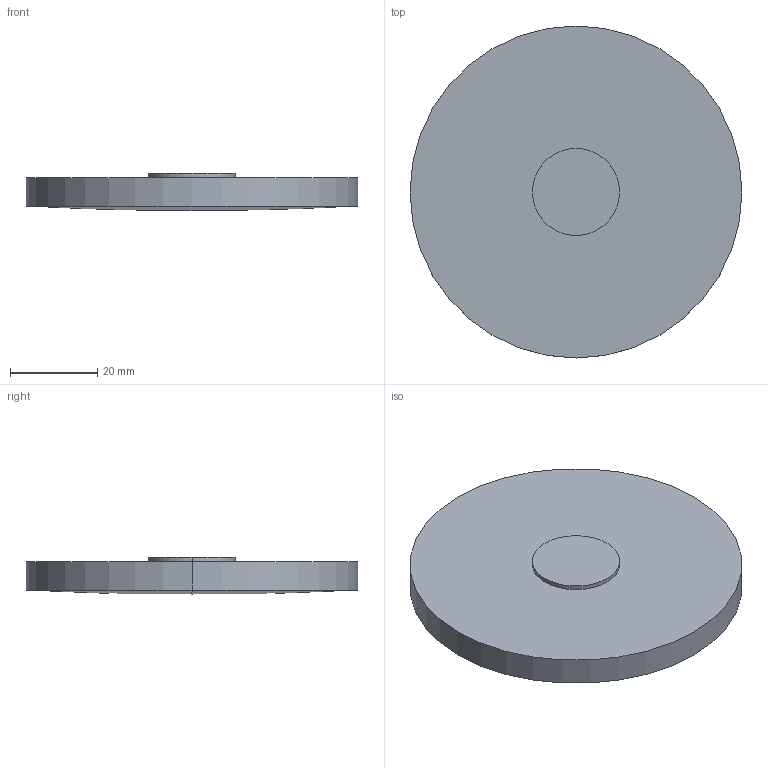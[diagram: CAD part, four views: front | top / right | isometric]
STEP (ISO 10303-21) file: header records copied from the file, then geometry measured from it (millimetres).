
FILE_DESCRIPTION(('STEP AP214'),'1');
FILE_NAME('LL-76-1M.STEP','2020-03-09T17:41:19',(' '),(' '),'Spatial InterOp 3D',' ',' ');
FILE_SCHEMA(('AUTOMOTIVE_DESIGN { 1 0 10303 214 1 1 1 1 }'));
Length unit declared in the file: millimetre
Products named in the file (1): 1
Bounding box: 76.2 x 76.2 x 8.5 mm (x, y, z)
Volume: 32174 mm3; surface area: 11364.6 mm2
Topology: 2 solids, 2 shells, 9 faces, 16 edges, 9 vertices
Faces by surface type: cylinder 4, plane 3, sphere 2
Entity records: 229 total; most frequent: DIRECTION 46, CARTESIAN_POINT 34, ORIENTED_EDGE 28, AXIS2_PLACEMENT_3D 21, EDGE_CURVE 14, CIRCLE 10, ADVANCED_FACE 9, FACE_OUTER_BOUND 9
